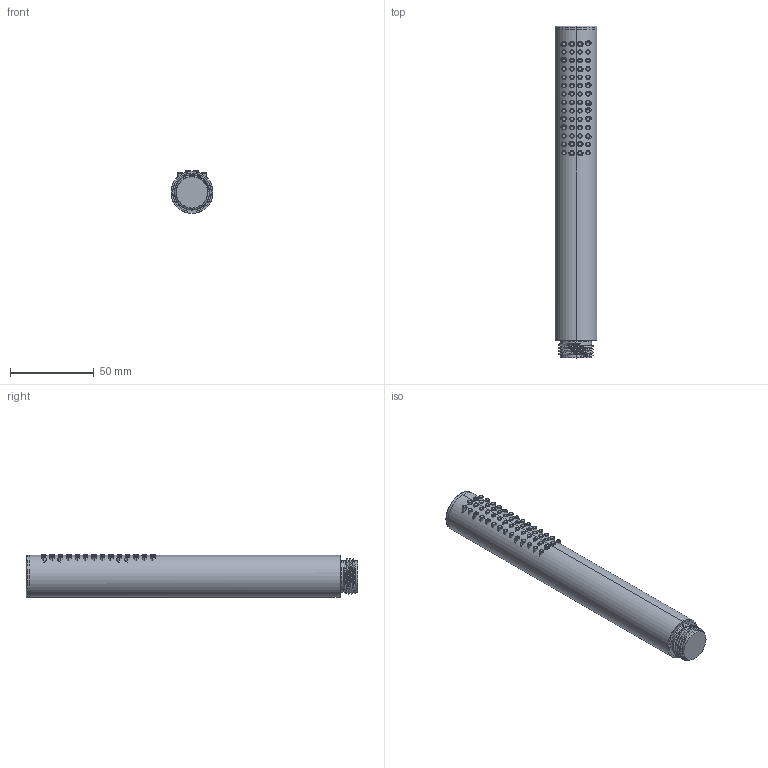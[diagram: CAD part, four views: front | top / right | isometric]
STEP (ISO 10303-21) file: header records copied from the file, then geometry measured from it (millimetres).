
FILE_DESCRIPTION((''),'2;1');
FILE_NAME('76664--00','2026-09-10T14:29:37',('simi1'),(''),'CREO PARAMETRIC BY PTC INC, 2022244','CREO PARAMETRIC BY PTC INC, 2022244','');
FILE_SCHEMA(('CONFIG_CONTROL_DESIGN'));
Length unit declared in the file: millimetre
Products named in the file (1): 76664--00
Bounding box: 25 x 197.75 x 25.5 mm (x, y, z)
Surface area: 18241.7 mm2 (no closed solid volume)
Topology: 0 solids, 79 shells, 330 faces, 737 edges, 480 vertices
Faces by surface type: cylinder 122, torus 116, plane 59, bspline 31, sphere 2
Entity records: 15754 total; most frequent: CARTESIAN_POINT 8812, DIRECTION 1551, ORIENTED_EDGE 1249, EDGE_CURVE 735, AXIS2_PLACEMENT_3D 709, VERTEX_POINT 480, CIRCLE 410, EDGE_LOOP 330
